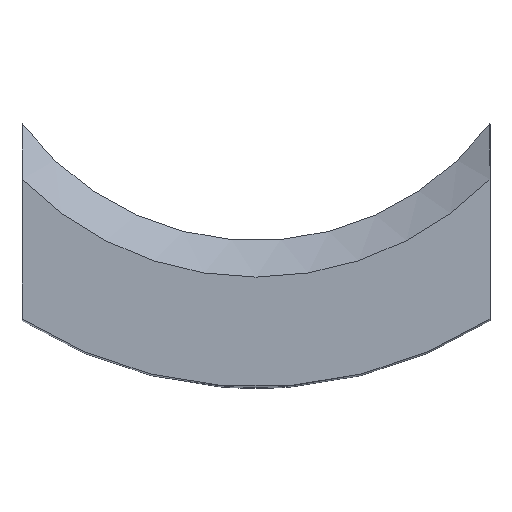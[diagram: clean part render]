
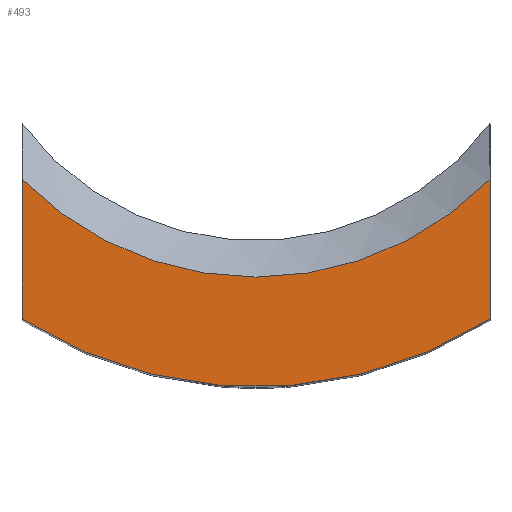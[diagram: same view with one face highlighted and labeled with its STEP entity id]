
A CAD part, top view. The second image highlights one B-rep face of the part: STEP entity #493.
In plain terms, the highlighted planar face has unit normal (0, 0, 1).
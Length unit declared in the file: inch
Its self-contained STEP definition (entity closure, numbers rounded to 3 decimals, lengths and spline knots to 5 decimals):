
#22 = DIRECTION ( 'NONE',  ( 0., 0., 1. ) ) ;
#24 = CARTESIAN_POINT ( 'NONE',  ( 0.8, -1.26886, 3.125 ) ) ;
#86 = EDGE_CURVE ( 'NONE', #331, #398, #420, .T. ) ;
#113 = EDGE_CURVE ( 'NONE', #266, #655, #755, .T. ) ;
#125 = AXIS2_PLACEMENT_3D ( 'NONE', #758, #356, #154 ) ;
#153 = CARTESIAN_POINT ( 'NONE',  ( -0.8, 0., 3.125 ) ) ;
#154 = DIRECTION ( 'NONE',  ( 1., 0., 0. ) ) ;
#158 = ORIENTED_EDGE ( 'NONE', *, *, #270, .F. ) ;
#239 = ORIENTED_EDGE ( 'NONE', *, *, #86, .T. ) ;
#263 = CARTESIAN_POINT ( 'NONE',  ( 0., 0., 3.125 ) ) ;
#266 = VERTEX_POINT ( 'NONE', #319 ) ;
#270 = EDGE_CURVE ( 'NONE', #266, #398, #528, .T. ) ;
#274 = VECTOR ( 'NONE', #742, 39.37008 ) ;
#301 = LINE ( 'NONE', #153, #274 ) ;
#314 = ORIENTED_EDGE ( 'NONE', *, *, #113, .T. ) ;
#319 = CARTESIAN_POINT ( 'NONE',  ( 0.8, -0.79096, 3.125 ) ) ;
#324 = VECTOR ( 'NONE', #772, 39.37008 ) ;
#331 = VERTEX_POINT ( 'NONE', #670 ) ;
#356 = DIRECTION ( 'NONE',  ( 0., 0., -1. ) ) ;
#358 = DIRECTION ( 'NONE',  ( 1., 0., 0. ) ) ;
#383 = AXIS2_PLACEMENT_3D ( 'NONE', #495, #566, #569 ) ;
#394 = EDGE_CURVE ( 'NONE', #331, #655, #301, .T. ) ;
#398 = VERTEX_POINT ( 'NONE', #24 ) ;
#412 = CARTESIAN_POINT ( 'NONE',  ( 0.8, 0., 3.125 ) ) ;
#420 = CIRCLE ( 'NONE', #604, 1.5 ) ;
#493 = ADVANCED_FACE ( 'NONE', ( #745 ), #527, .T. ) ;
#495 = CARTESIAN_POINT ( 'NONE',  ( 0., 0., 3.125 ) ) ;
#511 = CARTESIAN_POINT ( 'NONE',  ( -0.8, -0.79096, 3.125 ) ) ;
#524 = ORIENTED_EDGE ( 'NONE', *, *, #394, .F. ) ;
#527 = PLANE ( 'NONE',  #383 ) ;
#528 = LINE ( 'NONE', #412, #324 ) ;
#547 = EDGE_LOOP ( 'NONE', ( #158, #314, #524, #239 ) ) ;
#566 = DIRECTION ( 'NONE',  ( 0., 0., 1. ) ) ;
#569 = DIRECTION ( 'NONE',  ( 1., 0., 0. ) ) ;
#604 = AXIS2_PLACEMENT_3D ( 'NONE', #263, #22, #358 ) ;
#655 = VERTEX_POINT ( 'NONE', #511 ) ;
#670 = CARTESIAN_POINT ( 'NONE',  ( -0.8, -1.26886, 3.125 ) ) ;
#742 = DIRECTION ( 'NONE',  ( 0., 1., 0. ) ) ;
#745 = FACE_OUTER_BOUND ( 'NONE', #547, .T. ) ;
#755 = CIRCLE ( 'NONE', #125, 1.125 ) ;
#758 = CARTESIAN_POINT ( 'NONE',  ( 0., 0., 3.125 ) ) ;
#772 = DIRECTION ( 'NONE',  ( 0., -1., 0. ) ) ;
